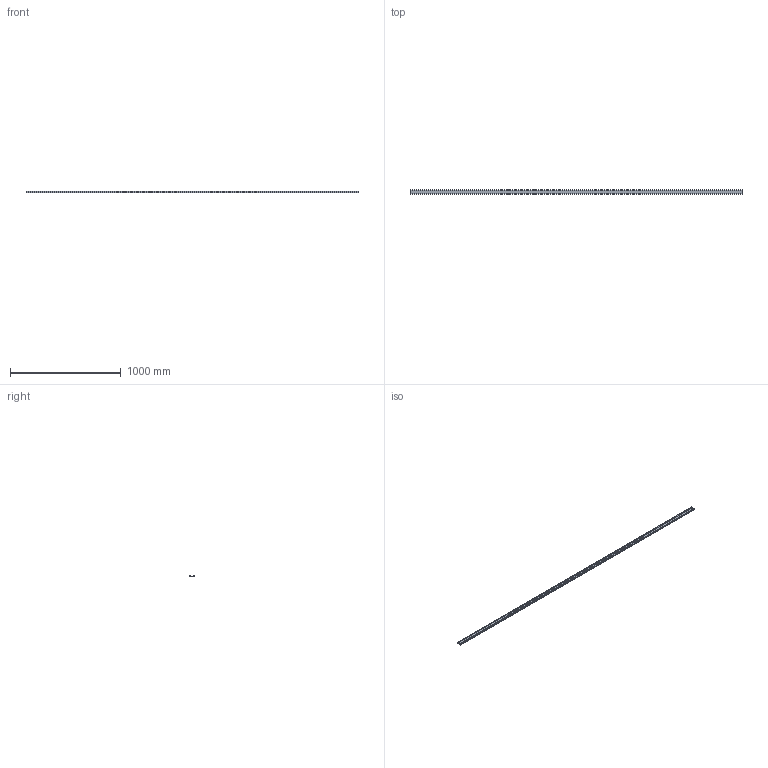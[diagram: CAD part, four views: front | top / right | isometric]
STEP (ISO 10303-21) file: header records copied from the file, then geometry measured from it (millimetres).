
FILE_DESCRIPTION (( 'STEP AP214' ), '1' );
FILE_NAME ('FABER - FD7 1.STEP', '2017-04-06T07:35:21', ( '' ), ( '' ), 'SwSTEP 2.0', 'SolidWorks 2016', '' );
FILE_SCHEMA (( 'AUTOMOTIVE_DESIGN' ));
Length unit declared in the file: millimetre
Products named in the file (1): FABER - FD7 1
Bounding box: 3000 x 40 x 10 mm (x, y, z)
Volume: 664500 mm3; surface area: 408443 mm2
Topology: 1 solids, 1 shells, 14 faces, 36 edges, 24 vertices
Faces by surface type: plane 14
Entity records: 454 total; most frequent: CARTESIAN_POINT 75, ORIENTED_EDGE 72, DIRECTION 66, EDGE_CURVE 36, VECTOR 36, LINE 36, VERTEX_POINT 24, AXIS2_PLACEMENT_3D 15
